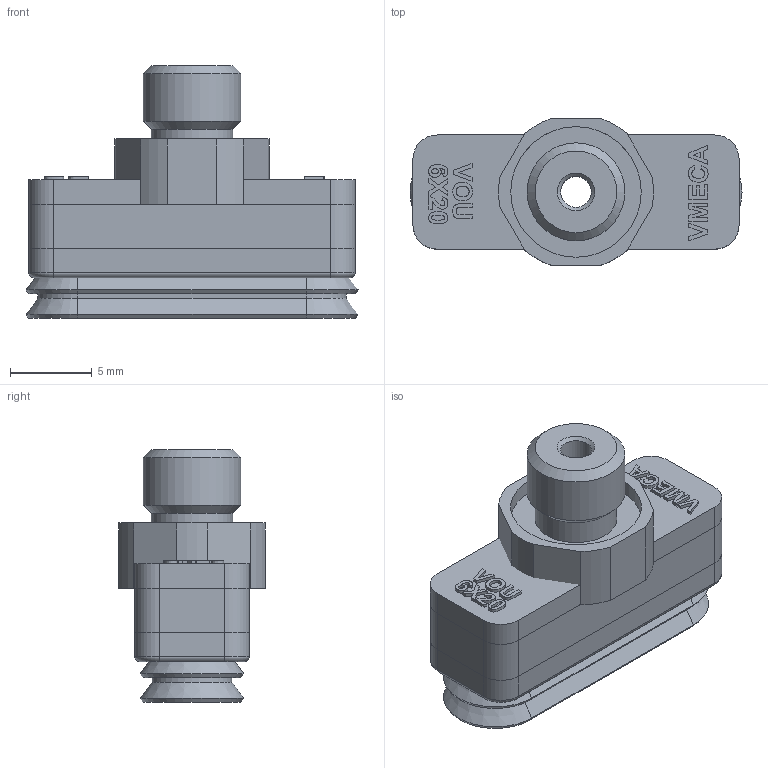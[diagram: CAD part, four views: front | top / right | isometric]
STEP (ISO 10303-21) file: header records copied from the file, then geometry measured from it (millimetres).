
FILE_DESCRIPTION( ( 'Unknown' ), '1' );
FILE_NAME( 'C:/Documents and Settings/owner/官帕 拳搁/VOU 6X20-N-M6M.stp', 'Unknown', ( 'Unknown' ), ( 'Unknown' ), 'XStep 1.0', 'Unknown', ' ' );
FILE_SCHEMA( ( 'automotive_design' ) );
Length unit declared in the file: millimetre
Products named in the file (3): Assem1; 6X20_STP; VOU M6M
Bounding box: 20.35 x 9 x 15.5 mm (x, y, z)
Volume: 2354.5 mm3; surface area: 2453.1 mm2
Topology: 4 solids, 4 shells, 318 faces, 770 edges, 500 vertices
Faces by surface type: plane 226, cylinder 44, extrusion 26, cone 14, torus 8
Full cylindrical faces by diameter (mm): 1.9 x2, 3 x2, 3.1 x2, 5 x2, 6 x2, 8 x2
Entity records: 6429 total; most frequent: CARTESIAN_POINT 1651, ORIENTED_EDGE 740, DIRECTION 710, EDGE_CURVE 370, VECTOR 302, LINE 289, VERTEX_POINT 249, AXIS2_PLACEMENT_3D 204
